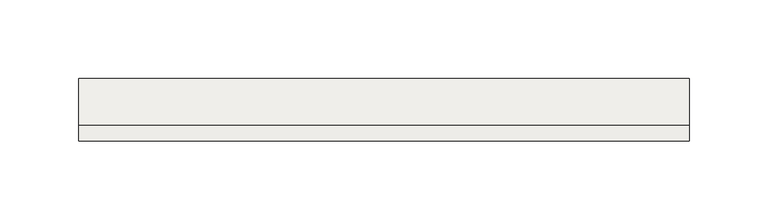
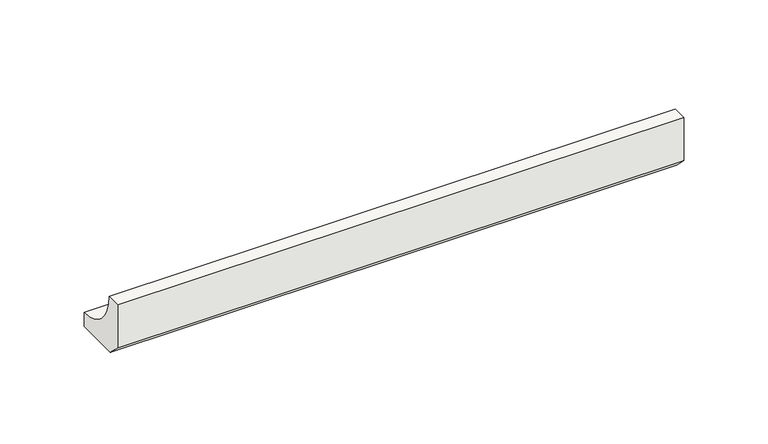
"""IFC4 building model written with IfcOpenShell, lengths in millimetres: slab geometry, ROSA GRES_188 : Pieza 188_Pietro_White_Anti-Slip."""

from ifc_helpers import new_model, si_unit, point, frame, frame_2d, origin, place, context, project, spatial, polyline, circle_curve, trimmed, segment, composite_curve, outline, extrude, source, transform, mapped, element, save


def slab_be6d574a(model_context):
    return source(origin(), model_context, "Body", "SweptSolid", [
        extrude(outline(composite_curve([segment(polyline([(0.0, 8.7114978), (0.0, 40.0), (9.9734114, 40.0)]), True, "CONTINUOUS"), segment(trimmed(circle_curve(frame_2d((39.9955547, 39.9955547)), 30.0221435), [point((9.9734114, 40.0))], [point((40.0, 9.9734114))], True, "CARTESIAN"), True, "CONTINUOUS"), segment(polyline([(40.0, 9.9734114), (40.0, 0.0), (8.7114978, 0.0), (0.0, 8.7114978)]), True, "CONTINUOUS")], self_intersect=False)), frame((0.0, 0.0, 0.0), z_axis=(1.0, 0.0, 0.0), x_axis=(0.0, 1.0, 0.0)), (0.0, 0.0, 1.0), 388.5595972),
    ])


if __name__ == "__main__":
    model = new_model("IFC4")
    model_context = context("Model", 3, world=origin())
    ifc_project = project(units=[si_unit("LENGTHUNIT", "METRE", prefix="MILLI")], contexts=[model_context])
    site = spatial("IfcSite", under=ifc_project)
    building = spatial("IfcBuilding", under=site)
    placement = place(None, origin())
    slab_shape = slab_be6d574a(model_context)
    element("IfcSlab", 1, ObjectType="ROSA GRES_188 : Pieza 188_Pietro_White_Anti-Slip", at=placement, inside=building, context=model_context, shape_type="MappedRepresentation", body=[
        mapped(slab_shape, transform((0.0, 0.0, 0.0), x_axis=(1.0, 0.0, 0.0), y_axis=(0.0, 1.0, 0.0), z_axis=(0.0, 0.0, 1.0))),
    ])
    save(model, "model.ifc")
